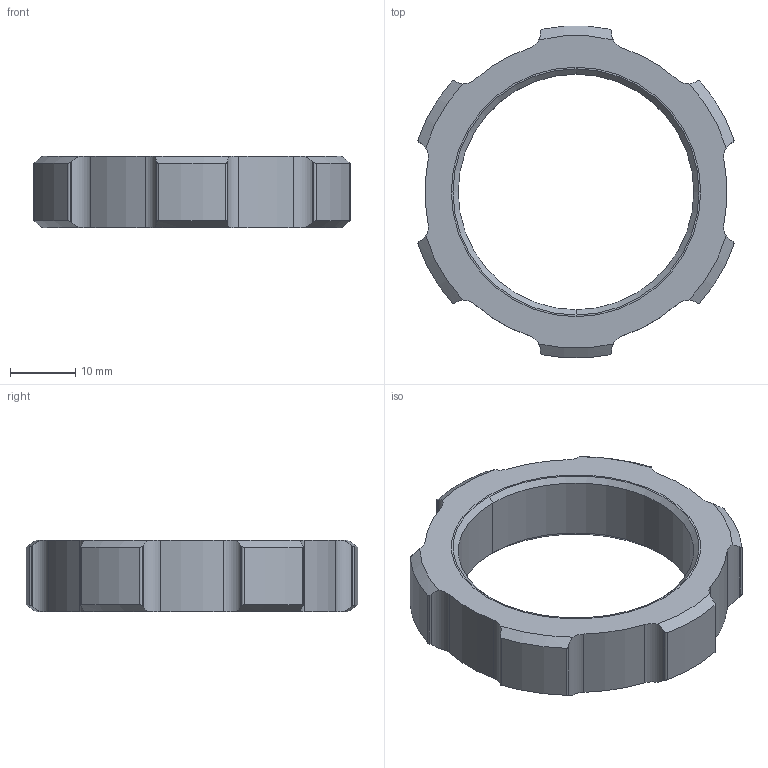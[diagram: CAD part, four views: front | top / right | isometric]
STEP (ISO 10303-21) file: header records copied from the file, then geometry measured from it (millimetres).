
FILE_DESCRIPTION((''),'2;1');
FILE_NAME('46100BEFESTIGUNGSMUTTER','2012-07-13T',('DSmarsli'),(''),'PRO/ENGINEER BY PARAMETRIC TECHNOLOGY CORPORATION, 2010180','PRO/ENGINEER BY PARAMETRIC TECHNOLOGY CORPORATION, 2010180','');
FILE_SCHEMA(('CONFIG_CONTROL_DESIGN'));
Length unit declared in the file: millimetre
Products named in the file (1): 46100BEFESTIGUNGSMUTTER
Bounding box: 48.28 x 50.68 x 10.9 mm (x, y, z)
Volume: 8727.9 mm3; surface area: 5763.7 mm2
Topology: 1 solids, 2 shells, 70 faces, 200 edges, 132 vertices
Faces by surface type: cylinder 40, cone 16, plane 14
Entity records: 2544 total; most frequent: CARTESIAN_POINT 739, ORIENTED_EDGE 396, DIRECTION 342, EDGE_CURVE 200, AXIS2_PLACEMENT_3D 143, VERTEX_POINT 132, EDGE_LOOP 72, CIRCLE 72
